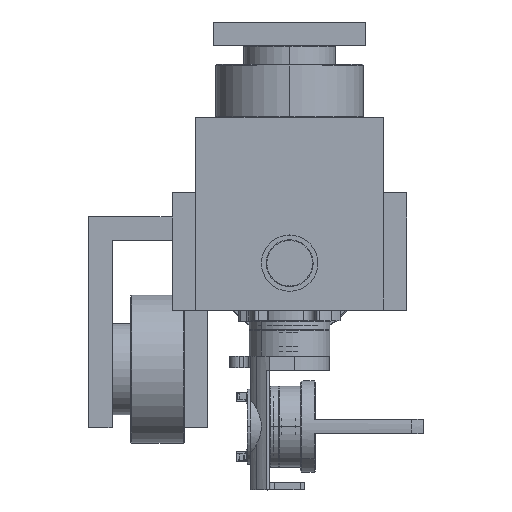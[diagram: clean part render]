
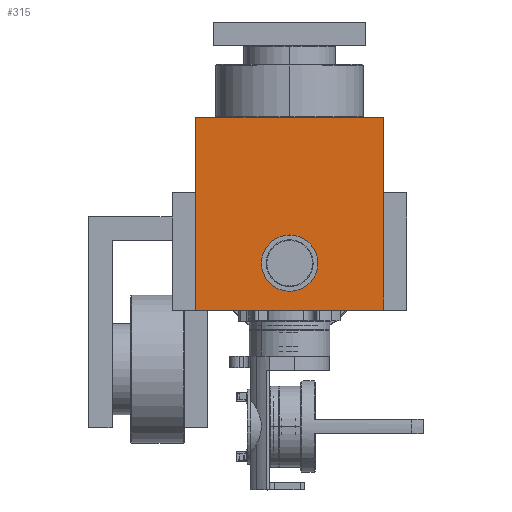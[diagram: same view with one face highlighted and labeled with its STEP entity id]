
A CAD part, top view. The second image highlights one B-rep face of the part: STEP entity #315.
In plain terms, the highlighted planar face has unit normal (0, 0, 1) as drawn and (1, 0, 0) by its records, which use the part's own axes.
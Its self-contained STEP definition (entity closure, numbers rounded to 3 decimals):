
#315 = ADVANCED_FACE ( 'NONE', ( #705, #30543 ), #60406, .F. ) ;
#705 = FACE_BOUND ( 'NONE', #79572, .T. ) ;
#2165 = DIRECTION ( 'NONE',  ( 0., 0., 1. ) ) ;
#2691 = VERTEX_POINT ( 'NONE', #61053 ) ;
#5507 = ORIENTED_EDGE ( 'NONE', *, *, #77793, .F. ) ;
#7071 = EDGE_LOOP ( 'NONE', ( #77712, #89824, #40472, #14873 ) ) ;
#8051 = CIRCLE ( 'NONE', #81541, 12. ) ;
#10001 = CARTESIAN_POINT ( 'NONE',  ( 100.7, 47.181, -12. ) ) ;
#10005 = CARTESIAN_POINT ( 'NONE',  ( 100.7, 67.181, 40. ) ) ;
#14449 = CARTESIAN_POINT ( 'NONE',  ( 100.7, 16.633, 40. ) ) ;
#14873 = ORIENTED_EDGE ( 'NONE', *, *, #29987, .F. ) ;
#15128 = LINE ( 'NONE', #43502, #52455 ) ;
#15889 = DIRECTION ( 'NONE',  ( -1., 0., 0. ) ) ;
#16285 = CARTESIAN_POINT ( 'NONE',  ( 100.7, 67.181, 40. ) ) ;
#16683 = VECTOR ( 'NONE', #93139, 1000. ) ;
#20530 = DIRECTION ( 'NONE',  ( 0., 0., -1. ) ) ;
#21319 = EDGE_CURVE ( 'NONE', #53417, #55561, #64645, .T. ) ;
#26503 = CARTESIAN_POINT ( 'NONE',  ( 100.7, 16.633, -40. ) ) ;
#28342 = CARTESIAN_POINT ( 'NONE',  ( 100.7, 47.181, 0. ) ) ;
#28885 = CARTESIAN_POINT ( 'NONE',  ( 100.7, 16.633, 40. ) ) ;
#29987 = EDGE_CURVE ( 'NONE', #2691, #53417, #15128, .T. ) ;
#30543 = FACE_OUTER_BOUND ( 'NONE', #7071, .T. ) ;
#31380 = EDGE_CURVE ( 'NONE', #2691, #89029, #86288, .T. ) ;
#32128 = CARTESIAN_POINT ( 'NONE',  ( 100.7, 47.181, 12. ) ) ;
#37674 = CARTESIAN_POINT ( 'NONE',  ( 100.7, 67.181, -40. ) ) ;
#40472 = ORIENTED_EDGE ( 'NONE', *, *, #21319, .F. ) ;
#40758 = EDGE_CURVE ( 'NONE', #55561, #89029, #47191, .T. ) ;
#43018 = DIRECTION ( 'NONE',  ( 0., 0., 1. ) ) ;
#43502 = CARTESIAN_POINT ( 'NONE',  ( 100.7, -15., -101.781 ) ) ;
#45927 = CARTESIAN_POINT ( 'NONE',  ( 100.7, -15., 40. ) ) ;
#47191 = LINE ( 'NONE', #10005, #50314 ) ;
#50314 = VECTOR ( 'NONE', #61397, 1000. ) ;
#51231 = CARTESIAN_POINT ( 'NONE',  ( 100.7, 47.181, 0. ) ) ;
#52455 = VECTOR ( 'NONE', #43018, 1000. ) ;
#52767 = EDGE_CURVE ( 'NONE', #92101, #61298, #8051, .T. ) ;
#53417 = VERTEX_POINT ( 'NONE', #45927 ) ;
#55561 = VERTEX_POINT ( 'NONE', #16285 ) ;
#60406 = PLANE ( 'NONE',  #88305 ) ;
#61053 = CARTESIAN_POINT ( 'NONE',  ( 100.7, -15., -40. ) ) ;
#61298 = VERTEX_POINT ( 'NONE', #32128 ) ;
#61397 = DIRECTION ( 'NONE',  ( 0., 0., -1. ) ) ;
#64645 = LINE ( 'NONE', #28885, #66191 ) ;
#66191 = VECTOR ( 'NONE', #72493, 1000. ) ;
#72493 = DIRECTION ( 'NONE',  ( 0., 1., 0. ) ) ;
#74134 = AXIS2_PLACEMENT_3D ( 'NONE', #28342, #86212, #20530 ) ;
#77712 = ORIENTED_EDGE ( 'NONE', *, *, #31380, .T. ) ;
#77793 = EDGE_CURVE ( 'NONE', #61298, #92101, #85138, .T. ) ;
#79572 = EDGE_LOOP ( 'NONE', ( #90760, #5507 ) ) ;
#81147 = DIRECTION ( 'NONE',  ( 1., 0., 0. ) ) ;
#81541 = AXIS2_PLACEMENT_3D ( 'NONE', #51231, #81147, #96823 ) ;
#85138 = CIRCLE ( 'NONE', #74134, 12. ) ;
#86212 = DIRECTION ( 'NONE',  ( 1., 0., 0. ) ) ;
#86288 = LINE ( 'NONE', #26503, #16683 ) ;
#88305 = AXIS2_PLACEMENT_3D ( 'NONE', #14449, #15889, #2165 ) ;
#89029 = VERTEX_POINT ( 'NONE', #37674 ) ;
#89824 = ORIENTED_EDGE ( 'NONE', *, *, #40758, .F. ) ;
#90760 = ORIENTED_EDGE ( 'NONE', *, *, #52767, .F. ) ;
#92101 = VERTEX_POINT ( 'NONE', #10001 ) ;
#93139 = DIRECTION ( 'NONE',  ( 0., 1., 0. ) ) ;
#96823 = DIRECTION ( 'NONE',  ( 0., 0., -1. ) ) ;
